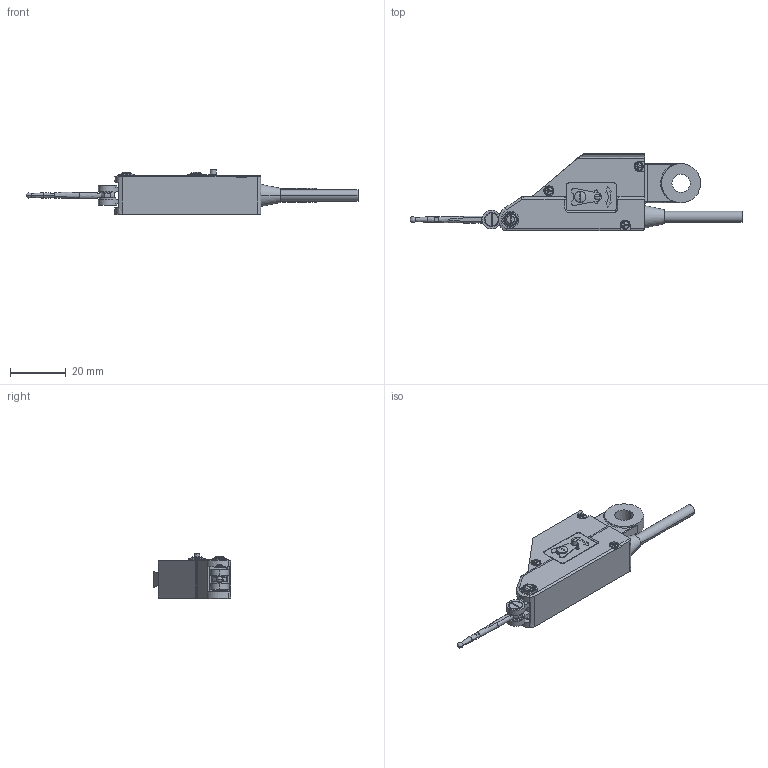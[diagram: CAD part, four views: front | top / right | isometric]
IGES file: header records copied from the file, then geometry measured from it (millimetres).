
Start section: Elysium IGES Interface
Global section: file name: 62HX:\users\kw_rdg\niwanoa\sagyou\01_製品データ\06_EM\519-521.igs; native system: Creo Elements/Direct Modeling 18.1C  24-Feb-2013; preprocessor: Creo Element/Direct IGES_3D V2.2; author: Unknown; organization: Unknown; date: 20170821.184132; units: millimetre
Bounding box: 118.8 x 27.75 x 16.45 mm (x, y, z)
Volume: 16250.1 mm3; surface area: 6502.1 mm2
Topology: 1 solids, 1 shells, 595 faces, 1570 edges, 1008 vertices
Faces by surface type: bspline 595
